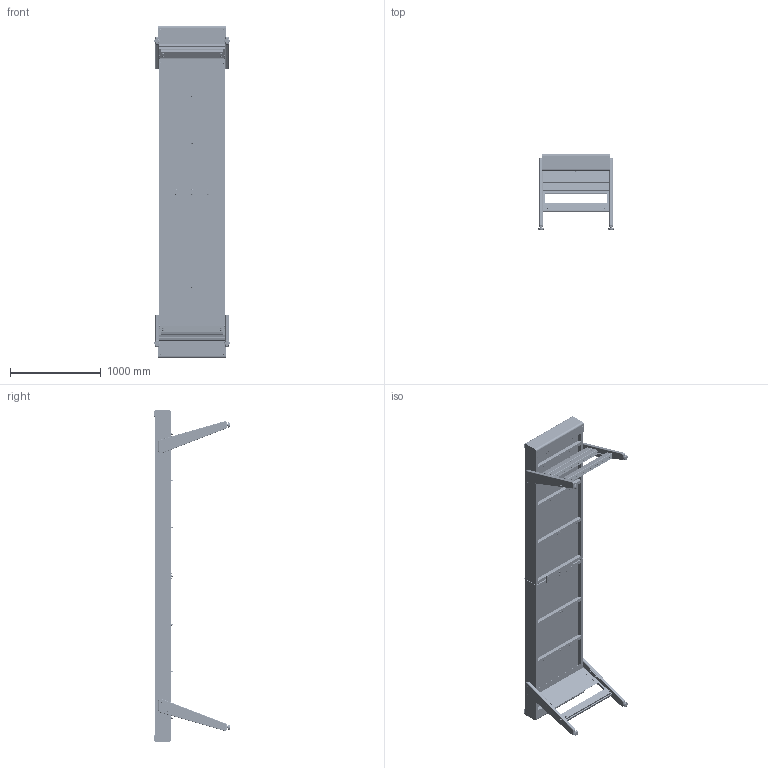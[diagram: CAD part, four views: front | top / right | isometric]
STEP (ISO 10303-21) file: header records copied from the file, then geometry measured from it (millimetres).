
FILE_DESCRIPTION (( 'STEP AP214' ), '1' );
FILE_NAME ('TRACK-12 1N.STEP', '2023-11-17T11:32:14', ( '' ), ( '' ), 'SwSTEP 2.0', 'SolidWorks 2020', '' );
FILE_SCHEMA (( 'AUTOMOTIVE_DESIGN' ));
Length unit declared in the file: millimetre
Products named in the file (68): 10138_m5 2mm; 10130; 10004; 200265; 200268; 200255; 10137; 300255; 200252; 200024; 300253; 200292; 10006; 200261; 300258; TORNILLO DIN 933_10003; 200256; 10111; 200266; 300252; 300251; 200253; 200278; 200304; 10139_m5 2mm; 200263; TORNILLO ISO 7380-2_11004; 300250; 200258; 300263; 300264; 200276; 300261; 200257; 200267; 200260; 200269; 210041_210041; 200277_Predeterminado<Como mecanizada>; 300265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
Assembly tree (328 placements, depth 5):
  TRACK-12 1N
    300256
      200274
      300255  x7
        200260
        200259
    300265
      200292
      300257  x3
        200263
        200265
      300260
        300262
          200276
          200278
        10137  x5
        10134_M5 1,5mm  x6
        10130  x9
        300263
          200277_Predeterminado<Como mecanizada>
          200279_Predeterminado<Como mecanizada>
        200273_Predeterminado<Como mecanizada>
        200271_Predeterminado<Como mecanizada>  x3
        200272_Predeterminado<Como mecanizada>
        10139_m5 2mm  x15
      300252
        200257
        200255
        200254
        200256  x2
      210041_210041  x9
      200298
      200266
      tornillo_iso_4762-m6x30-10_9  x12
    300264
      300260
        300262
          200276
          200278
        10137  x5
        10134_M5 1,5mm  x6
        10130  x9
        300263
          200277_Predeterminado<Como mecanizada>
          200279_Predeterminado<Como mecanizada>
        200273_Predeterminado<Como mecanizada>
        200271_Predeterminado<Como mecanizada>  x3
        200272_Predeterminado<Como mecanizada>
        10139_m5 2mm  x15
      210041_210041  x18
      300257  x3
        200263
        200265
      200292
      200266
      300253
        200258
        200255
        200254
      300254
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Bounding box: 831.9 x 837.65 x 3658.82 mm (x, y, z)
Volume: 73343513.7 mm3; surface area: 34319661.3 mm2
Topology: 449 solids, 449 shells, 11318 faces, 26990 edges, 16992 vertices
Faces by surface type: plane 5677, cylinder 3310, cone 1154, torus 958, sphere 135, bspline 84
Entity records: 83329 total; most frequent: CARTESIAN_POINT 15112, DIRECTION 13868, ORIENTED_EDGE 13136, EDGE_CURVE 6568, AXIS2_PLACEMENT_3D 4660, VECTOR 4548, LINE 4548, VERTEX_POINT 4168
